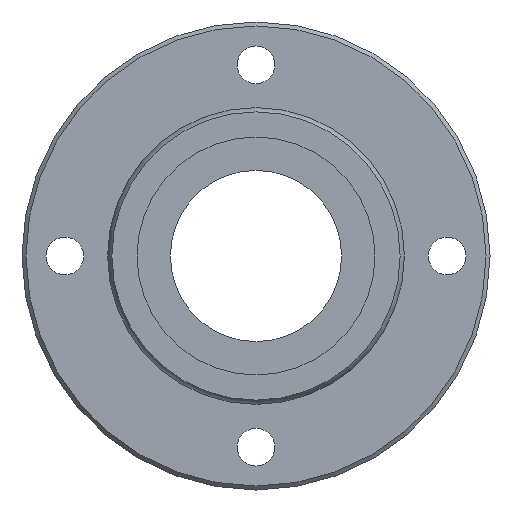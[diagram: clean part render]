
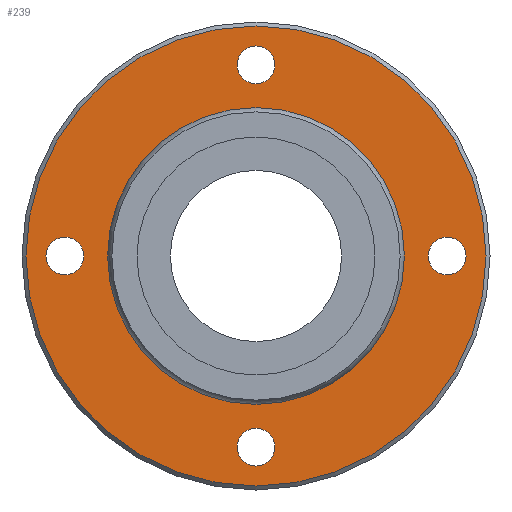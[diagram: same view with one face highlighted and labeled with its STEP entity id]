
A CAD part, left-side view. The second image highlights one B-rep face of the part: STEP entity #239.
In plain terms, the highlighted planar face has unit normal (-1, 0, 0).
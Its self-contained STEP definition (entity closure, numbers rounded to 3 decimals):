
#164=CARTESIAN_POINT('',(15.,0.,40.3));
#165=VERTEX_POINT('',#164);
#166=CARTESIAN_POINT('',(15.,0.0,0.0));
#167=DIRECTION('',(1.0,0.0,0.0));
#168=DIRECTION('',(0.0,0.0,-1.0));
#169=AXIS2_PLACEMENT_3D('',#166,#167,#168);
#170=CIRCLE('',#169,40.3);
#171=EDGE_CURVE('',#165,#165,#170,.T.);
#176=CARTESIAN_POINT('',(15.,0.0,33.357));
#177=DIRECTION('',(-1.0,0.0,0.0));
#178=DIRECTION('',(0.0,0.0,1.0));
#179=AXIS2_PLACEMENT_3D('',#176,#177,#178);
#180=PLANE('',#179);
#181=ORIENTED_EDGE('',*,*,#171,.F.);
#182=EDGE_LOOP('',(#181));
#183=FACE_OUTER_BOUND('',#182,.T.);
#184=CARTESIAN_POINT('',(15.,0.0,25.714));
#185=VERTEX_POINT('',#184);
#186=CARTESIAN_POINT('',(15.0,0.0,0.0));
#187=DIRECTION('',(-1.0,0.0,0.0));
#188=DIRECTION('',(0.0,0.0,1.0));
#189=AXIS2_PLACEMENT_3D('',#186,#187,#188);
#190=CIRCLE('',#189,25.714);
#191=EDGE_CURVE('',#185,#185,#190,.T.);
#192=ORIENTED_EDGE('',*,*,#191,.F.);
#193=EDGE_LOOP('',(#192));
#194=FACE_BOUND('',#193,.T.);
#195=CARTESIAN_POINT('',(15.0,-36.8,0.));
#196=VERTEX_POINT('',#195);
#197=CARTESIAN_POINT('',(15.0,-33.5,0.));
#198=DIRECTION('',(1.0,0.0,0.0));
#199=DIRECTION('',(0.0,1.0,0.0));
#200=AXIS2_PLACEMENT_3D('',#197,#198,#199);
#201=CIRCLE('',#200,3.3);
#202=EDGE_CURVE('',#196,#196,#201,.T.);
#203=ORIENTED_EDGE('',*,*,#202,.T.);
#204=EDGE_LOOP('',(#203));
#205=FACE_BOUND('',#204,.T.);
#206=CARTESIAN_POINT('',(15.0,30.2,0.));
#207=VERTEX_POINT('',#206);
#208=CARTESIAN_POINT('',(15.0,33.5,0.));
#209=DIRECTION('',(1.0,0.0,0.0));
#210=DIRECTION('',(0.0,1.0,0.0));
#211=AXIS2_PLACEMENT_3D('',#208,#209,#210);
#212=CIRCLE('',#211,3.3);
#213=EDGE_CURVE('',#207,#207,#212,.T.);
#214=ORIENTED_EDGE('',*,*,#213,.T.);
#215=EDGE_LOOP('',(#214));
#216=FACE_BOUND('',#215,.T.);
#217=CARTESIAN_POINT('',(15.0,-3.3,33.5));
#218=VERTEX_POINT('',#217);
#219=CARTESIAN_POINT('',(15.0,0.,33.5));
#220=DIRECTION('',(1.0,0.0,0.0));
#221=DIRECTION('',(0.0,1.0,0.0));
#222=AXIS2_PLACEMENT_3D('',#219,#220,#221);
#223=CIRCLE('',#222,3.3);
#224=EDGE_CURVE('',#218,#218,#223,.T.);
#225=ORIENTED_EDGE('',*,*,#224,.T.);
#226=EDGE_LOOP('',(#225));
#227=FACE_BOUND('',#226,.T.);
#228=CARTESIAN_POINT('',(15.0,-3.3,-33.5));
#229=VERTEX_POINT('',#228);
#230=CARTESIAN_POINT('',(15.0,0.,-33.5));
#231=DIRECTION('',(1.0,0.0,0.0));
#232=DIRECTION('',(0.0,1.0,0.0));
#233=AXIS2_PLACEMENT_3D('',#230,#231,#232);
#234=CIRCLE('',#233,3.3);
#235=EDGE_CURVE('',#229,#229,#234,.T.);
#236=ORIENTED_EDGE('',*,*,#235,.T.);
#237=EDGE_LOOP('',(#236));
#238=FACE_BOUND('',#237,.T.);
#239=ADVANCED_FACE('',(#183,#194,#205,#216,#227,#238),#180,.T.);
